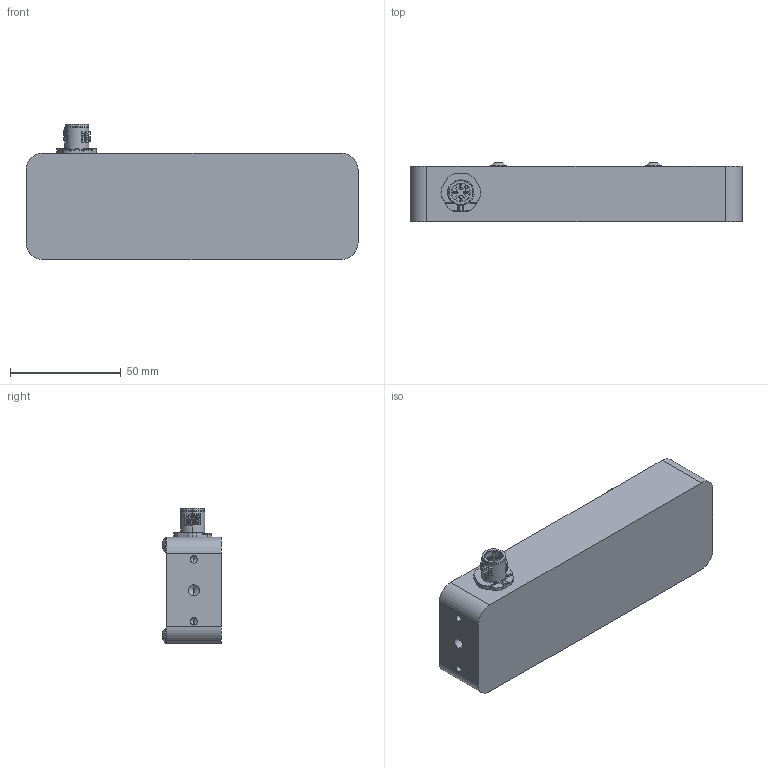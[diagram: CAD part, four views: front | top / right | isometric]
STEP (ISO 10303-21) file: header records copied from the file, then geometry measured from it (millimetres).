
FILE_DESCRIPTION (( 'STEP AP203' ), '1' );
FILE_NAME ('105815_100 (Part) (2017-09-08).STEP', '2017-09-08T12:28:40', ( '' ), ( '' ), 'SwSTEP 2.0', 'SolidWorks 2016', '' );
FILE_SCHEMA (( 'CONFIG_CONTROL_DESIGN' ));
Length unit declared in the file: millimetre
Products named in the file (1): 105815_100 (Part) (2017-09-08)
Bounding box: 150 x 26.65 x 61.01 mm (x, y, z)
Volume: 119402.8 mm3; surface area: 41286.3 mm2
Topology: 1 solids, 6 shells, 609 faces, 1614 edges, 989 vertices
Faces by surface type: plane 281, cylinder 171, bspline 66, cone 53, sphere 24, torus 14
Entity records: 23179 total; most frequent: CARTESIAN_POINT 8789, ORIENTED_EDGE 3106, DIRECTION 2802, EDGE_CURVE 1553, VERTEX_POINT 981, AXIS2_PLACEMENT_3D 953, VECTOR 896, LINE 896
